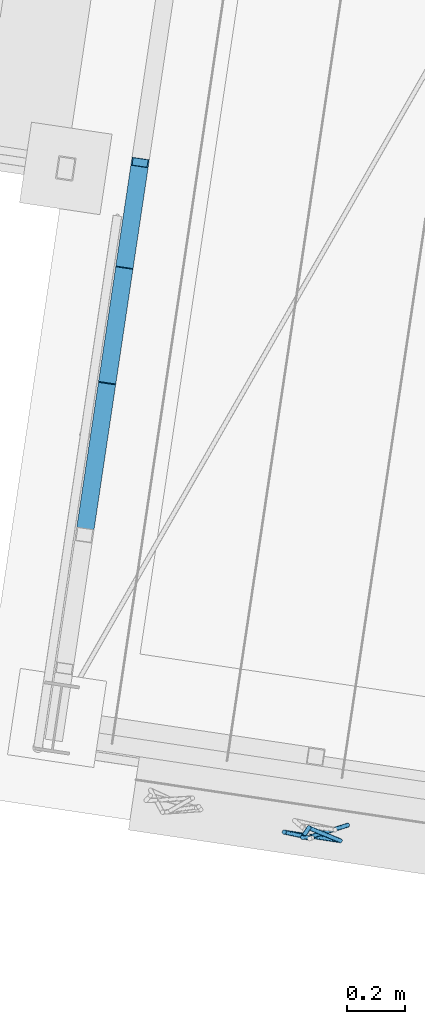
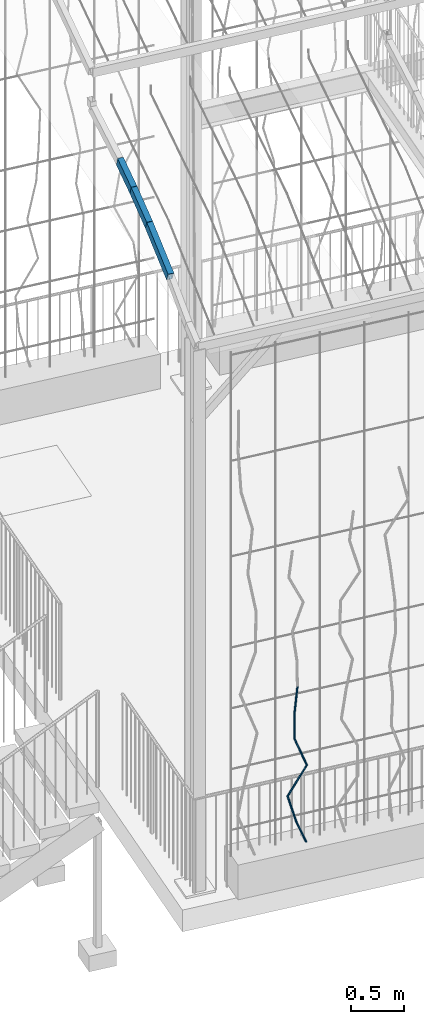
# One storey, part 106 of 142: 9 members, 2 elements without a shape of their own.
"""IFC4 building model written with IfcOpenShell, lengths in metres."""

from ifc_helpers import new_model, si_unit, direction, frame, origin_with_axes, place, context, subcontext, project, spatial, hollow_rectangle, circle, extrude, material, material_profile, profile_set, profile_usage, type_object, element, aggregate, save


model = new_model("IFC4")

# Units and contexts
model_context = context("Model", 3, precision=1e-05, world=origin_with_axes(), true_north=direction((0.0, 1.0)))
body_context = subcontext(model_context, "Body", "Model", "MODEL_VIEW")
ifc_project = project(units=[si_unit("LENGTHUNIT", "METRE"), si_unit("AREAUNIT", "SQUARE_METRE"), si_unit("VOLUMEUNIT", "CUBIC_METRE")], contexts=[model_context])

# Site, building, storey
site_placement = place(None, origin_with_axes())
site = spatial("IfcSite", under=ifc_project, at=site_placement, Name="Lares · Rua das Mercês · artigo 4771")
building_placement = place(site_placement, frame((15.0, 9.7, 14.65), z_axis=(0.0, 0.0, 1.0), x_axis=(0.989015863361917, -0.147809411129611, 0.0)))
building = spatial("IfcBuilding", under=site, at=building_placement, Name="Casa Sobreposta")
storey_placement = place(building_placement, origin_with_axes())
storey = spatial("IfcBuildingStorey", under=building, at=storey_placement, Name="00 · Habitação e estacionamento", Elevation=14.65)

# Assembly, members
assembly_1_placement = place(storey_placement, origin_with_axes())
assembly_1 = element("IfcElementAssembly", 1, at=assembly_1_placement, inside=storey, Name="Pérgola · prolongamento da estufa 6 m", ObjectType="PERGOLA_GREENHOUSE_EXTENSION", PredefinedType="USERDEFINED")
ifc_material_1 = material(Name="Aço pintado / Stahl lackiert", Category="steel")
ifc_material_profile_1 = material_profile(ifc_material_1, hollow_rectangle(XDim=0.06, YDim=0.1, WallThickness=0.004))
ifc_profile_set_1 = profile_set([ifc_material_profile_1], Name="RHS100x60x4")
ifc_profile_usage_1 = profile_usage(ifc_profile_set_1)
member_type_1 = type_object("IfcMemberType", Name="RHS100x60x4 / steel", PredefinedType="NOTDEFINED", material=ifc_profile_set_1)
member_1_placement = place(assembly_1_placement, frame((-6.0, -0.803062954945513, 6.57613537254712), z_axis=(0.0, 0.915885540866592, 0.401439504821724), x_axis=(1.0, 0.0, 0.0)))
member_1 = element("IfcMember", 2, at=member_1_placement, type_object=member_type_1, material=ifc_profile_usage_1, Name="Pérgola · arco contínuo com a estufa", context=body_context, shape_type="SweptSolid", body=[
    extrude(hollow_rectangle(XDim=0.06, YDim=0.1, WallThickness=0.004), origin_with_axes(), (0.0, 0.0, 1.0), 0.596771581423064),
])
ifc_profile_usage_2 = profile_usage(ifc_profile_set_1)
member_2_placement = place(assembly_1_placement, frame((-6.0, -0.256488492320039, 6.81570306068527), z_axis=(0.0, 0.942820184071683, 0.333301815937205), x_axis=(1.0, 0.0, 0.0)))
member_2 = element("IfcMember", 3, at=member_2_placement, type_object=member_type_1, material=ifc_profile_usage_2, Name="Pérgola · arco contínuo com a estufa", context=body_context, shape_type="SweptSolid", body=[
    extrude(hollow_rectangle(XDim=0.06, YDim=0.1, WallThickness=0.004), origin_with_axes(), (0.0, 0.0, 1.0), 0.423025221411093),
])
ifc_profile_usage_3 = profile_usage(ifc_profile_set_1)
member_3_placement = place(assembly_1_placement, frame((-6.0, 0.142348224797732, 6.95669813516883), z_axis=(0.0, 0.959692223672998, 0.281053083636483), x_axis=(1.0, 0.0, 0.0)))
member_3 = element("IfcMember", 4, at=member_3_placement, type_object=member_type_1, material=ifc_profile_usage_3, Name="Pérgola · arco contínuo com a estufa", context=body_context, shape_type="SweptSolid", body=[
    extrude(hollow_rectangle(XDim=0.06, YDim=0.1, WallThickness=0.004), origin_with_axes(), (0.0, 0.0, 1.0), 0.365557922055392),
])
aggregate(assembly_1, [member_1, member_2, member_3])

assembly_2_placement = place(storey_placement, origin_with_axes())
assembly_2 = element("IfcElementAssembly", 5, at=assembly_2_placement, inside=storey, Name="Fachada sul e pátio · estrutura e trepadeiras", ObjectType="LIVING_SHADE_TRELLIS", PredefinedType="USERDEFINED")
ifc_material_2 = material(Name="Ramos de trepadeiras", Category="wood")
ifc_material_profile_2 = material_profile(ifc_material_2, circle(Radius=0.0075))
ifc_profile_set_2 = profile_set([ifc_material_profile_2], Name="D0.015")
ifc_profile_usage_4 = profile_usage(ifc_profile_set_2)
member_type_2 = type_object("IfcMemberType", Name="D0.015 / vine_wood", PredefinedType="NOTDEFINED", material=ifc_profile_set_2)
member_4_placement = place(assembly_2_placement, frame((-4.95624243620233, -1.65711223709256, 0.35), z_axis=(-0.372606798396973, -0.180190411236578, 0.910327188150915), x_axis=(-0.435358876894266, 0.90025699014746, 0.0)))
member_4 = element("IfcMember", 6, at=member_4_placement, type_object=member_type_2, material=ifc_profile_usage_4, Name="Trepadeiras · ramo", context=body_context, shape_type="SweptSolid", body=[
    extrude(circle(Radius=0.0075), origin_with_axes(), (0.0, 0.0, 1.0), 0.340683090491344),
])
ifc_profile_usage_5 = profile_usage(ifc_profile_set_2)
member_5_placement = place(assembly_2_placement, frame((-5.0831832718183, -1.71850006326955, 0.660133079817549), z_axis=(-0.265741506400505, 0.0171143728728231, 0.963892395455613), x_axis=(0.0642691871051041, 0.997932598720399, 0.0)))
member_5 = element("IfcMember", 7, at=member_5_placement, type_object=member_type_2, material=ifc_profile_usage_5, Name="Trepadeiras · ramo", context=body_context, shape_type="SweptSolid", body=[
    extrude(circle(Radius=0.0075), origin_with_axes(), (0.0, 0.0, 1.0), 0.321750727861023),
])
ifc_profile_usage_6 = profile_usage(ifc_profile_set_2)
member_6_placement = place(assembly_2_placement, frame((-5.16868579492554, -1.71299350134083, 0.970266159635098), z_axis=(0.532535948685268, -0.00176824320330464, 0.84640553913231), x_axis=(-0.00332040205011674, -0.999994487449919, 0.0)))
member_6 = element("IfcMember", 8, at=member_6_placement, type_object=member_type_2, material=ifc_profile_usage_6, Name="Trepadeiras · ramo", context=body_context, shape_type="SweptSolid", body=[
    extrude(circle(Radius=0.0075), origin_with_axes(), (0.0, 0.0, 1.0), 0.366411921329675),
])
ifc_profile_usage_7 = profile_usage(ifc_profile_set_2)
member_7_placement = place(assembly_2_placement, frame((-4.97355827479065, -1.71364140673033, 1.28039923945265), z_axis=(-0.342385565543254, 0.0839938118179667, 0.935797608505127), x_axis=(0.238254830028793, 0.971202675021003, 0.0)))
member_7 = element("IfcMember", 9, at=member_7_placement, type_object=member_type_2, material=ifc_profile_usage_7, Name="Trepadeiras · ramo", context=body_context, shape_type="SweptSolid", body=[
    extrude(circle(Radius=0.0075), origin_with_axes(), (0.0, 0.0, 1.0), 0.331410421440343),
])
ifc_profile_usage_8 = profile_usage(ifc_profile_set_2)
member_8_placement = place(assembly_2_placement, frame((-5.08702841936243, -1.68580498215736, 1.5905323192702), z_axis=(-0.0515930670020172, -0.113887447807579, 0.992153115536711), x_axis=(-0.910889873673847, 0.412649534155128, 0.0)))
member_8 = element("IfcMember", 10, at=member_8_placement, type_object=member_type_2, material=ifc_profile_usage_8, Name="Trepadeiras · ramo", context=body_context, shape_type="SweptSolid", body=[
    extrude(circle(Radius=0.0075), origin_with_axes(), (0.0, 0.0, 1.0), 0.312585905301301),
])
ifc_profile_usage_9 = profile_usage(ifc_profile_set_2)
member_9_placement = place(assembly_2_placement, frame((-5.10315568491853, -1.72140459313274, 1.90066539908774), z_axis=(0.1015760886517, 0.00912740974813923, 0.994785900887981), x_axis=(0.0894972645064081, -0.995987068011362, 0.0)))
member_9 = element("IfcMember", 11, at=member_9_placement, type_object=member_type_2, material=ifc_profile_usage_9, Name="Trepadeiras · ramo", context=body_context, shape_type="SweptSolid", body=[
    extrude(circle(Radius=0.0075), origin_with_axes(), (0.0, 0.0, 1.0), 0.3117586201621),
])
aggregate(assembly_2, [member_4, member_5, member_6, member_7, member_8, member_9])

save(model, "model.ifc")
